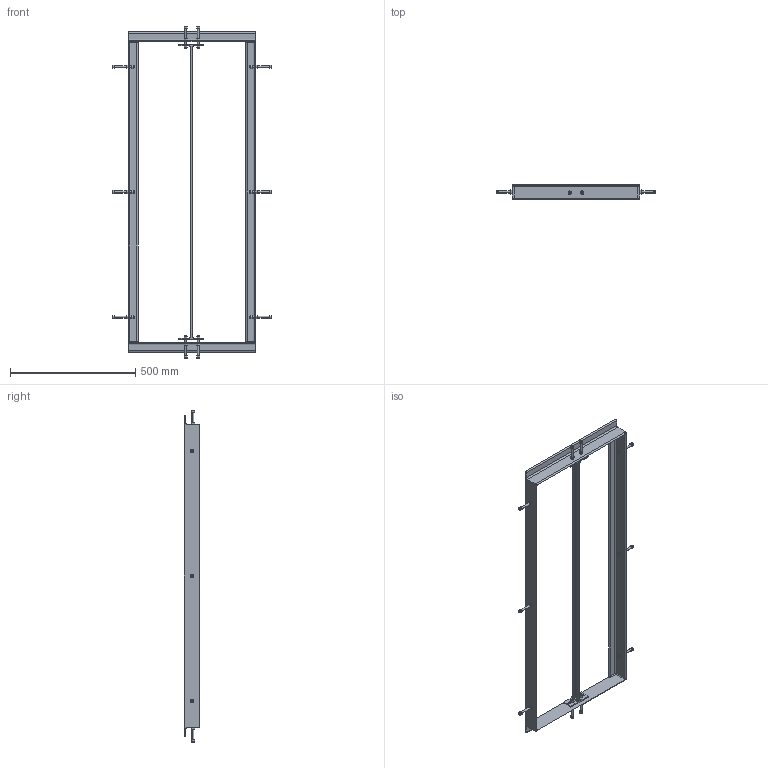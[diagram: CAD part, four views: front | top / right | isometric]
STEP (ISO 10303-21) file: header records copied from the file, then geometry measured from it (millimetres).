
FILE_DESCRIPTION (( 'STEP AP214' ), '1' );
FILE_NAME ('KP_DC1220F.step', '2012-10-04T09:36:17', ( 'robinj' ), ( 'Microsoft' ), 'SwSTEP 2.0', 'SolidWorks 2012', '' );
FILE_SCHEMA (( 'AUTOMOTIVE_DESIGN' ));
Length unit declared in the file: millimetre
Products named in the file (1): KP_DC1220F
Bounding box: 636 x 60 x 1326 mm (x, y, z)
Volume: 1887067.3 mm3; surface area: 804368.2 mm2
Topology: 5 solids, 5 shells, 829 faces, 1918 edges, 1132 vertices
Faces by surface type: plane 379, cone 293, cylinder 117, torus 40
Entity records: 33987 total; most frequent: CARTESIAN_POINT 6627, ORIENTED_EDGE 3796, DIRECTION 3730, EDGE_CURVE 1898, AXIS2_PLACEMENT_3D 1499, VERTEX_POINT 1132, EDGE_LOOP 906, UNCERTAINTY_MEASURE_WITH_UNIT 836
